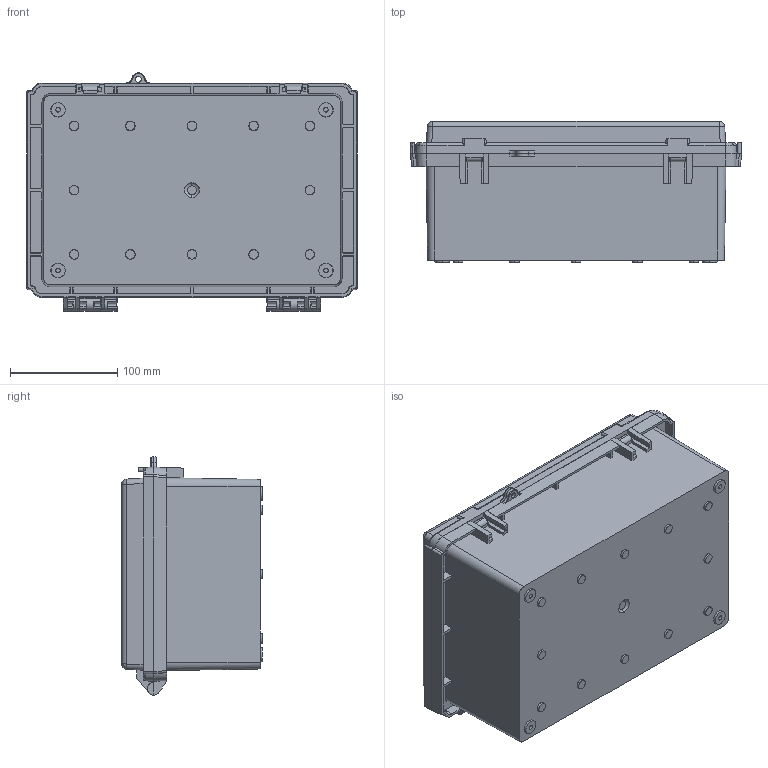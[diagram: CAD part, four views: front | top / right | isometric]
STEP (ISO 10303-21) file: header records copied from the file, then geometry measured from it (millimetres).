
FILE_DESCRIPTION (( 'STEP AP203' ), '1' );
FILE_NAME ('PC203013.STEP', '2021-03-01T14:06:17', ( '' ), ( '' ), 'SwSTEP 2.0', 'SolidWorks 2021', '' );
FILE_SCHEMA (( 'CONFIG_CONTROL_DESIGN' ));
Length unit declared in the file: millimetre
Products named in the file (3): PC203013
Assembly tree (2 placements, depth 2):
  PC203013
    PC203013
    PC203013
Bounding box: 309 x 131.4 x 222.4 mm (x, y, z)
Volume: 878628.8 mm3; surface area: 514616.8 mm2
Topology: 2 solids, 2 shells, 633 faces, 1662 edges, 1066 vertices
Faces by surface type: plane 371, cylinder 104, cone 96, bspline 40, torus 13, sphere 9
Entity records: 20983 total; most frequent: CARTESIAN_POINT 5539, ORIENTED_EDGE 3302, DIRECTION 2966, EDGE_CURVE 1651, VECTOR 1080, LINE 1080, VERTEX_POINT 1064, AXIS2_PLACEMENT_3D 943
